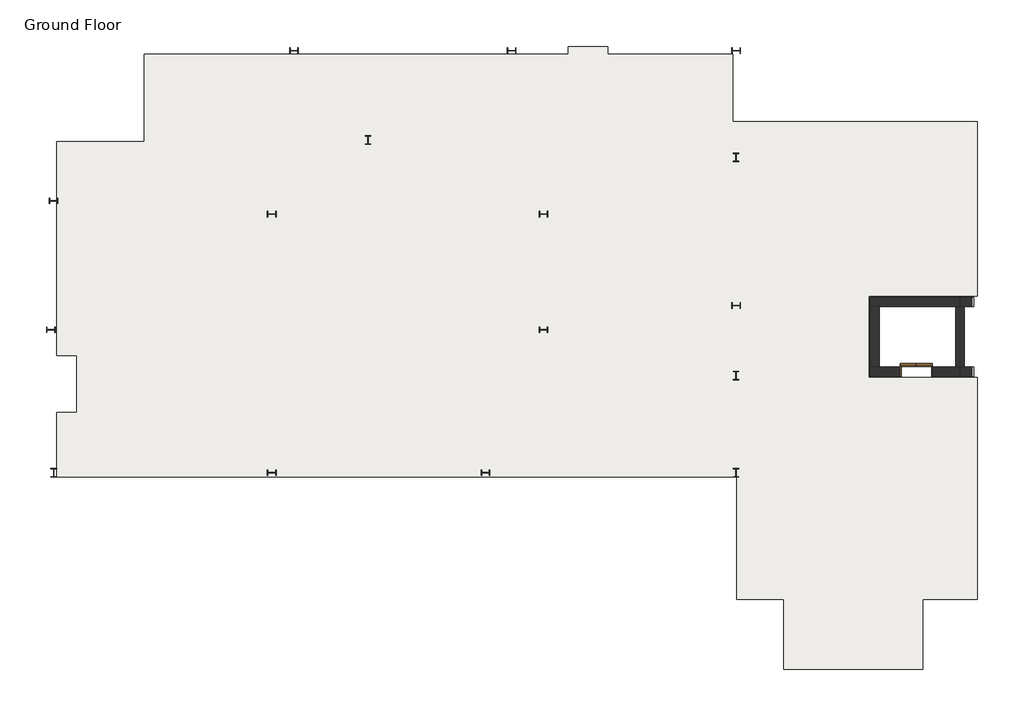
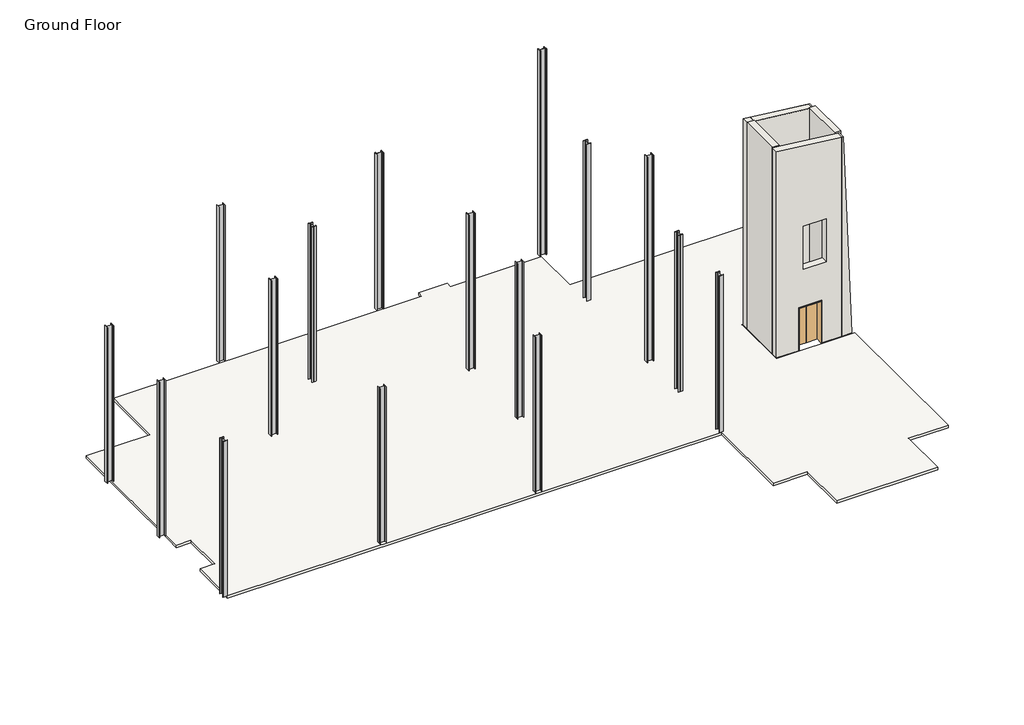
# One storey: 16 columns, 7 walls, 1 door, 1 slab.
"""IFC4 building model written with IfcOpenShell, lengths in millimetres."""

from ifc_helpers import new_model, si_unit, point, frame, frame_2d, origin, place, context, project, spatial, polyline, circle_curve, trimmed, segment, composite_curve, outline, extrude, faceted_brep, transform, mapped, element, save
from components import w_wide_flange_column_w12x40_bfea6e2c, door_aaeb5b8c

model = new_model("IFC4")

# Units and contexts
model_context = context("Model", 3, world=origin())
ifc_project = project(units=[si_unit("LENGTHUNIT", "METRE", prefix="MILLI")], contexts=[model_context])

# Site, building, storey
site = spatial("IfcSite", under=ifc_project)
building = spatial("IfcBuilding", under=site)
storey = spatial("IfcBuildingStorey", under=building, Name="Ground Floor", Elevation=30480.0)

# Columns
placement = place(None, origin())
element("IfcColumn", 1, ObjectType="W-Wide Flange-Column : W12X40", at=placement, inside=storey, context=model_context, shape_type="SweptSolid", body=[
    extrude(outline(composite_curve([segment(polyline([(13669.3791487, -6791.0746401), (13669.3791487, -6804.1715151), (13593.3279768, -6804.1715151)]), True, "CONTINUOUS"), segment(trimmed(circle_curve(frame_2d((13593.3279768, -6825.9996401)), 21.828125), [point((13593.3279768, -6804.1715151))], [point((13571.4998518, -6825.9996401))], True, "CARTESIAN"), True, "CONTINUOUS"), segment(polyline([(13571.4998518, -6825.9996401), (13571.4998518, -7059.4613589)]), True, "CONTINUOUS"), segment(trimmed(circle_curve(frame_2d((13593.3279768, -7059.4613589)), 21.828125), [point((13571.4998518, -7059.4613589))], [point((13593.3279768, -7081.2894839))], True, "CARTESIAN"), True, "CONTINUOUS"), segment(polyline([(13593.3279768, -7081.2894839), (13669.3791487, -7081.2894839), (13669.3791487, -7094.3863589), (13466.0799299, -7094.3863589), (13466.0799299, -7081.2894839), (13542.1311018, -7081.2894839)]), True, "CONTINUOUS"), segment(trimmed(circle_curve(frame_2d((13542.1311018, -7059.4613589)), 21.828125), [point((13542.1311018, -7081.2894839))], [point((13563.9592268, -7059.4613589))], True, "CARTESIAN"), True, "CONTINUOUS"), segment(polyline([(13563.9592268, -7059.4613589), (13563.9592268, -6825.9996401)]), True, "CONTINUOUS"), segment(trimmed(circle_curve(frame_2d((13542.1311018, -6825.9996401)), 21.828125), [point((13563.9592268, -6825.9996401))], [point((13542.1311018, -6804.1715151))], True, "CARTESIAN"), True, "CONTINUOUS"), segment(polyline([(13542.1311018, -6804.1715151), (13466.0799299, -6804.1715151), (13466.0799299, -6791.0746401), (13669.3791487, -6791.0746401)]), True, "CONTINUOUS")], self_intersect=False)), frame((0.0, 0.0, 30480.0), z_axis=(0.0, 0.0, 1.0), x_axis=(1.0, 0.0, 0.0)), (0.0, 0.0, 1.0), 7988.3),
])
element("IfcColumn", 2, ObjectType="W-Wide Flange-Column : W12X40", at=placement, inside=storey, context=model_context, shape_type="SweptSolid", body=[
    extrude(outline(composite_curve([segment(polyline([(-10575.3444063, -1833.0779639), (-10562.2475313, -1833.0779639), (-10562.2475313, -1909.1291357)]), True, "CONTINUOUS"), segment(trimmed(circle_curve(frame_2d((-10540.4194063, -1909.1291357)), 21.828125), [point((-10562.2475313, -1909.1291357))], [point((-10540.4194063, -1930.9572607))], True, "CARTESIAN"), True, "CONTINUOUS"), segment(polyline([(-10540.4194063, -1930.9572607), (-10306.9576875, -1930.9572607)]), True, "CONTINUOUS"), segment(trimmed(circle_curve(frame_2d((-10306.9576875, -1909.1291357)), 21.828125), [point((-10306.9576875, -1930.9572607))], [point((-10285.1295625, -1909.1291357))], True, "CARTESIAN"), True, "CONTINUOUS"), segment(polyline([(-10285.1295625, -1909.1291357), (-10285.1295625, -1833.0779639), (-10272.0326875, -1833.0779639), (-10272.0326875, -2036.3771826), (-10285.1295625, -2036.3771826), (-10285.1295625, -1960.3260107)]), True, "CONTINUOUS"), segment(trimmed(circle_curve(frame_2d((-10306.9576875, -1960.3260107)), 21.828125), [point((-10285.1295625, -1960.3260107))], [point((-10306.9576875, -1938.4978857))], True, "CARTESIAN"), True, "CONTINUOUS"), segment(polyline([(-10306.9576875, -1938.4978857), (-10540.4194063, -1938.4978857)]), True, "CONTINUOUS"), segment(trimmed(circle_curve(frame_2d((-10540.4194063, -1960.3260107)), 21.828125), [point((-10540.4194063, -1938.4978857))], [point((-10562.2475313, -1960.3260107))], True, "CARTESIAN"), True, "CONTINUOUS"), segment(polyline([(-10562.2475313, -1960.3260107), (-10562.2475313, -2036.3771826), (-10575.3444063, -2036.3771826), (-10575.3444063, -1833.0779639)]), True, "CONTINUOUS")], self_intersect=False)), frame((0.0, 0.0, 30480.0), z_axis=(0.0, 0.0, 1.0), x_axis=(1.0, 0.0, 0.0)), (0.0, 0.0, 1.0), 7924.8),
])
element("IfcColumn", 3, ObjectType="W-Wide Flange-Column : W12X40", at=placement, inside=storey, context=model_context, shape_type="SweptSolid", body=[
    extrude(outline(composite_curve([segment(polyline([(13416.0736799, 7944.8941099), (13429.1705549, 7944.8941099), (13429.1705549, 7868.842938)]), True, "CONTINUOUS"), segment(trimmed(circle_curve(frame_2d((13450.9986799, 7868.842938)), 21.828125), [point((13429.1705549, 7868.842938))], [point((13450.9986799, 7847.014813))], True, "CARTESIAN"), True, "CONTINUOUS"), segment(polyline([(13450.9986799, 7847.014813), (13684.4603987, 7847.014813)]), True, "CONTINUOUS"), segment(trimmed(circle_curve(frame_2d((13684.4603987, 7868.842938)), 21.828125), [point((13684.4603987, 7847.014813))], [point((13706.2885237, 7868.842938))], True, "CARTESIAN"), True, "CONTINUOUS"), segment(polyline([(13706.2885237, 7868.842938), (13706.2885237, 7944.8941099), (13719.3853987, 7944.8941099), (13719.3853987, 7741.5948911), (13706.2885237, 7741.5948911), (13706.2885237, 7817.646063)]), True, "CONTINUOUS"), segment(trimmed(circle_curve(frame_2d((13684.4603987, 7817.646063)), 21.828125), [point((13706.2885237, 7817.646063))], [point((13684.4603987, 7839.474188))], True, "CARTESIAN"), True, "CONTINUOUS"), segment(polyline([(13684.4603987, 7839.474188), (13450.9986799, 7839.474188)]), True, "CONTINUOUS"), segment(trimmed(circle_curve(frame_2d((13450.9986799, 7817.646063)), 21.828125), [point((13450.9986799, 7839.474188))], [point((13429.1705549, 7817.646063))], True, "CARTESIAN"), True, "CONTINUOUS"), segment(polyline([(13429.1705549, 7817.646063), (13429.1705549, 7741.5948911), (13416.0736799, 7741.5948911), (13416.0736799, 7944.8941099)]), True, "CONTINUOUS")], self_intersect=False)), frame((0.0, 0.0, 30480.0), z_axis=(0.0, 0.0, 1.0), x_axis=(1.0, 0.0, 0.0)), (0.0, 0.0, 1.0), 10466.7908493),
])
element("IfcColumn", 4, ObjectType="W-Wide Flange-Column : W12X40", at=placement, inside=storey, context=model_context, shape_type="SweptSolid", body=[
    extrude(outline(composite_curve([segment(polyline([(13466.0799299, 3954.6136411), (13466.0799299, 3967.7105161), (13542.1311018, 3967.7105161)]), True, "CONTINUOUS"), segment(trimmed(circle_curve(frame_2d((13542.1311018, 3989.5386411)), 21.828125), [point((13542.1311018, 3967.7105161))], [point((13563.9592268, 3989.5386411))], True, "CARTESIAN"), True, "CONTINUOUS"), segment(polyline([(13563.9592268, 3989.5386411), (13563.9592268, 4223.0003599)]), True, "CONTINUOUS"), segment(trimmed(circle_curve(frame_2d((13542.1311018, 4223.0003599)), 21.828125), [point((13563.9592268, 4223.0003599))], [point((13542.1311018, 4244.8284849))], True, "CARTESIAN"), True, "CONTINUOUS"), segment(polyline([(13542.1311018, 4244.8284849), (13466.0799299, 4244.8284849), (13466.0799299, 4257.9253599), (13669.3791487, 4257.9253599), (13669.3791487, 4244.8284849), (13593.3279768, 4244.8284849)]), True, "CONTINUOUS"), segment(trimmed(circle_curve(frame_2d((13593.3279768, 4223.0003599)), 21.828125), [point((13593.3279768, 4244.8284849))], [point((13571.4998518, 4223.0003599))], True, "CARTESIAN"), True, "CONTINUOUS"), segment(polyline([(13571.4998518, 4223.0003599), (13571.4998518, 3989.5386411)]), True, "CONTINUOUS"), segment(trimmed(circle_curve(frame_2d((13593.3279768, 3989.5386411)), 21.828125), [point((13571.4998518, 3989.5386411))], [point((13593.3279768, 3967.7105161))], True, "CARTESIAN"), True, "CONTINUOUS"), segment(polyline([(13593.3279768, 3967.7105161), (13669.3791487, 3967.7105161), (13669.3791487, 3954.6136411), (13466.0799299, 3954.6136411)]), True, "CONTINUOUS")], self_intersect=False)), frame((0.0, 0.0, 30480.0), z_axis=(0.0, 0.0, 1.0), x_axis=(1.0, 0.0, 0.0)), (0.0, 0.0, 1.0), 7988.3),
])
element("IfcColumn", 5, ObjectType="W-Wide Flange-Column : W12X40", at=placement, inside=storey, context=model_context, shape_type="SweptSolid", body=[
    extrude(outline(composite_curve([segment(polyline([(13719.3853987, -1186.5051089), (13706.2885237, -1186.5051089), (13706.2885237, -1110.453937)]), True, "CONTINUOUS"), segment(trimmed(circle_curve(frame_2d((13684.4603987, -1110.453937)), 21.828125), [point((13706.2885237, -1110.453937))], [point((13684.4603987, -1088.625812))], True, "CARTESIAN"), True, "CONTINUOUS"), segment(polyline([(13684.4603987, -1088.625812), (13450.9986799, -1088.625812)]), True, "CONTINUOUS"), segment(trimmed(circle_curve(frame_2d((13450.9986799, -1110.453937)), 21.828125), [point((13450.9986799, -1088.625812))], [point((13429.1705549, -1110.453937))], True, "CARTESIAN"), True, "CONTINUOUS"), segment(polyline([(13429.1705549, -1110.453937), (13429.1705549, -1186.5051089), (13416.0736799, -1186.5051089), (13416.0736799, -983.2058901), (13429.1705549, -983.2058901), (13429.1705549, -1059.257062)]), True, "CONTINUOUS"), segment(trimmed(circle_curve(frame_2d((13450.9986799, -1059.257062)), 21.828125), [point((13429.1705549, -1059.257062))], [point((13450.9986799, -1081.085187))], True, "CARTESIAN"), True, "CONTINUOUS"), segment(polyline([(13450.9986799, -1081.085187), (13684.4603987, -1081.085187)]), True, "CONTINUOUS"), segment(trimmed(circle_curve(frame_2d((13684.4603987, -1059.257062)), 21.828125), [point((13684.4603987, -1081.085187))], [point((13706.2885237, -1059.257062))], True, "CARTESIAN"), True, "CONTINUOUS"), segment(polyline([(13706.2885237, -1059.257062), (13706.2885237, -983.2058901), (13719.3853987, -983.2058901), (13719.3853987, -1186.5051089)]), True, "CONTINUOUS")], self_intersect=False)), frame((0.0, 0.0, 30480.0), z_axis=(0.0, 0.0, 1.0), x_axis=(1.0, 0.0, 0.0)), (0.0, 0.0, 1.0), 10466.8036839),
])
element("IfcColumn", 6, ObjectType="W-Wide Flange-Column : W12X40", at=placement, inside=storey, context=model_context, shape_type="SweptSolid", body=[
    extrude(outline(composite_curve([segment(polyline([(13669.3791487, -3387.4746401), (13669.3791487, -3400.5715151), (13593.3279768, -3400.5715151)]), True, "CONTINUOUS"), segment(trimmed(circle_curve(frame_2d((13593.3279768, -3422.3996401)), 21.828125), [point((13593.3279768, -3400.5715151))], [point((13571.4998518, -3422.3996401))], True, "CARTESIAN"), True, "CONTINUOUS"), segment(polyline([(13571.4998518, -3422.3996401), (13571.4998518, -3655.8613589)]), True, "CONTINUOUS"), segment(trimmed(circle_curve(frame_2d((13593.3279768, -3655.8613589)), 21.828125), [point((13571.4998518, -3655.8613589))], [point((13593.3279768, -3677.6894839))], True, "CARTESIAN"), True, "CONTINUOUS"), segment(polyline([(13593.3279768, -3677.6894839), (13669.3791487, -3677.6894839), (13669.3791487, -3690.7863589), (13466.0799299, -3690.7863589), (13466.0799299, -3677.6894839), (13542.1311018, -3677.6894839)]), True, "CONTINUOUS"), segment(trimmed(circle_curve(frame_2d((13542.1311018, -3655.8613589)), 21.828125), [point((13542.1311018, -3677.6894839))], [point((13563.9592268, -3655.8613589))], True, "CARTESIAN"), True, "CONTINUOUS"), segment(polyline([(13563.9592268, -3655.8613589), (13563.9592268, -3422.3996401)]), True, "CONTINUOUS"), segment(trimmed(circle_curve(frame_2d((13542.1311018, -3422.3996401)), 21.828125), [point((13563.9592268, -3422.3996401))], [point((13542.1311018, -3400.5715151))], True, "CARTESIAN"), True, "CONTINUOUS"), segment(polyline([(13542.1311018, -3400.5715151), (13466.0799299, -3400.5715151), (13466.0799299, -3387.4746401), (13669.3791487, -3387.4746401)]), True, "CONTINUOUS")], self_intersect=False)), frame((0.0, 0.0, 30480.0), z_axis=(0.0, 0.0, 1.0), x_axis=(1.0, 0.0, 0.0)), (0.0, 0.0, 1.0), 7988.3),
])
w_wide_flange_column_w12x40_shape = w_wide_flange_column_w12x40_bfea6e2c(model_context)
element("IfcColumn", 7, ObjectType="W-Wide Flange-Column : W12X40", at=placement, inside=storey, context=model_context, shape_type="MappedRepresentation", body=[
    mapped(w_wide_flange_column_w12x40_shape, transform((-10327.3204607, -6942.7304995, 0.0), x_axis=(1.0, 0.0, 0.0), y_axis=(0.0, 1.0, 0.0), z_axis=(0.0, 0.0, 1.0))),
])
element("IfcColumn", 8, ObjectType="W-Wide Flange-Column : W12X40", at=placement, inside=storey, context=model_context, shape_type="MappedRepresentation", body=[
    mapped(w_wide_flange_column_w12x40_shape, transform((-2689.8579607, -6942.7304995, 0.0), x_axis=(0.0, 1.0000000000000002, 0.0), y_axis=(-1.0000000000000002, 0.0, 0.0), z_axis=(0.0, 0.0, 1.0))),
])
element("IfcColumn", 9, ObjectType="W-Wide Flange-Column : W12X40", at=placement, inside=storey, context=model_context, shape_type="MappedRepresentation", body=[
    mapped(w_wide_flange_column_w12x40_shape, transform((4795.2045393, -6942.7304995, 0.0), x_axis=(0.0, 1.0000000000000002, 0.0), y_axis=(-1.0000000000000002, 0.0, 0.0), z_axis=(0.0, 0.0, 1.0))),
])
element("IfcColumn", 10, ObjectType="W-Wide Flange-Column : W12X40", at=placement, inside=storey, context=model_context, shape_type="MappedRepresentation", body=[
    mapped(w_wide_flange_column_w12x40_shape, transform((6825.6170393, -1935.7554995, 0.0), x_axis=(0.0, -1.0000000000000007, 0.0), y_axis=(1.0000000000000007, 0.0, 0.0), z_axis=(0.0, 0.0, 1.0))),
])
element("IfcColumn", 11, ObjectType="W-Wide Flange-Column : W12X40", at=placement, inside=storey, context=model_context, shape_type="MappedRepresentation", body=[
    mapped(w_wide_flange_column_w12x40_shape, transform((-2689.8579607, 2125.0695005, 0.0), x_axis=(0.0, 1.0, 0.0), y_axis=(-1.0, 0.0, 0.0), z_axis=(0.0, 0.0, 1.0))),
])
element("IfcColumn", 12, ObjectType="W-Wide Flange-Column : W12X40", at=placement, inside=storey, context=model_context, shape_type="MappedRepresentation", body=[
    mapped(w_wide_flange_column_w12x40_shape, transform((6825.6170393, 2125.0695005, 0.0), x_axis=(0.0, 1.0000000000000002, 0.0), y_axis=(-1.0000000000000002, 0.0, 0.0), z_axis=(0.0, 0.0, 1.0))),
])
element("IfcColumn", 13, ObjectType="W-Wide Flange-Column : W12X40", at=placement, inside=storey, context=model_context, shape_type="MappedRepresentation", body=[
    mapped(w_wide_flange_column_w12x40_shape, transform((-1910.3954607, 7843.2445005, 0.0), x_axis=(0.0, 1.0000000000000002, 0.0), y_axis=(-1.0000000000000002, 0.0, 0.0), z_axis=(0.0, 0.0, 1.0))),
])
element("IfcColumn", 14, ObjectType="W-Wide Flange-Column : W12X40", at=placement, inside=storey, context=model_context, shape_type="MappedRepresentation", body=[
    mapped(w_wide_flange_column_w12x40_shape, transform((5709.6045393, 7843.2445005, 0.0), x_axis=(0.0, 1.0000000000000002, 0.0), y_axis=(-1.0000000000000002, 0.0, 0.0), z_axis=(0.0, 0.0, 1.0))),
])
element("IfcColumn", 15, ObjectType="W-Wide Flange-Column : W12X40", at=placement, inside=storey, context=model_context, shape_type="MappedRepresentation", body=[
    mapped(w_wide_flange_column_w12x40_shape, transform((-10327.3204607, 2582.2695005, 0.0), x_axis=(0.0, 1.0000000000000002, 0.0), y_axis=(-1.0000000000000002, 0.0, 0.0), z_axis=(0.0, 0.0, 1.0))),
])
element("IfcColumn", 16, ObjectType="W-Wide Flange-Column : W12X40", at=placement, inside=storey, context=model_context, shape_type="MappedRepresentation", body=[
    mapped(w_wide_flange_column_w12x40_shape, transform((680.4045393, 4715.8695005, 0.0), x_axis=(1.0, 0.0, 0.0), y_axis=(0.0, 1.0, 0.0), z_axis=(0.0, 0.0, 1.0))),
])

# Door
door_shape = door_aaeb5b8c(model_context)
element("IfcDoor", 17, ObjectType="Elevator_Door_CabCenter-Genericrfa : 42\" Opening", at=placement, inside=storey, context=model_context, shape_type="MappedRepresentation", body=[
    mapped(door_shape, transform((19883.5486799, -3399.4304995, 30480.0), x_axis=(1.0, 0.0, 0.0), y_axis=(0.0, 1.0, 0.0), z_axis=(0.0, 0.0, 1.0))),
])

# Slab
element("IfcSlab", 18, ObjectType="5\" Concrete", at=placement, inside=storey, context=model_context, shape_type="Brep", body=[
    faceted_brep([(7700.3295393, 7725.7695005, 30353.0), (7700.3295393, 7992.4695005, 30353.0), (9071.9295393, 7992.4695005, 30353.0), (9071.9295393, 7725.7695005, 30353.0), (13450.2545393, 7725.7695005, 30353.0), (13450.2545393, 7116.1695005, 30353.0), (13450.2545393, 5350.8695005, 30353.0), (22019.578935, 5350.8695005, 30353.0), (22019.578935, -757.8304995, 30353.0), (18219.8486799, -757.8304995, 30353.0), (18219.8486799, -3602.6304995, 30353.0), (22019.578935, -3602.6304995, 30353.0), (22019.578935, -11381.3804995, 30353.0), (20105.0545393, -11381.3804995, 30353.0), (20105.0545393, -13826.1304995, 30353.0), (15240.9545393, -13826.1304995, 30353.0), (15240.9545393, -11381.3804995, 30353.0), (13583.6045393, -11381.3804995, 30353.0), (13583.6045393, -10771.7804995, 30353.0), (13583.6045393, -7095.1304995, 30353.0), (-10225.7204607, -7095.1304995, 30353.0), (-10225.7204607, -4821.8304995, 30353.0), (-9524.0454607, -4821.8304995, 30353.0), (-9524.0454607, -2837.4554995, 30353.0), (-10225.7204607, -2837.4554995, 30353.0), (-10225.7204607, -2227.8554995, 30353.0), (-10225.7204607, 4661.8945005, 30353.0), (-7149.1454607, 4661.8945005, 30353.0), (-7149.1454607, 7725.7695005, 30353.0), (7700.3295393, 7725.7695005, 30480.0), (-7149.1454607, 7725.7695005, 30480.0), (-7149.1454607, 4661.8945005, 30480.0), (-10225.7204607, 4661.8945005, 30480.0), (-10225.7204607, -2837.4554995, 30480.0), (-9524.0454607, -2837.4554995, 30480.0), (-9524.0454607, -4821.8304995, 30480.0), (-10225.7204607, -4821.8304995, 30480.0), (-10225.7204607, -7095.1304995, 30480.0), (13583.6045393, -7095.1304995, 30480.0), (13583.6045393, -11381.3804995, 30480.0), (15240.9545393, -11381.3804995, 30480.0), (15240.9545393, -13826.1304995, 30480.0), (20105.0545393, -13826.1304995, 30480.0), (20105.0545393, -11381.3804995, 30480.0), (22019.578935, -11381.3804995, 30480.0), (22019.578935, -3602.6304995, 30480.0), (18219.8486799, -3602.6304995, 30480.0), (18219.8486799, -757.8304995, 30480.0), (22019.578935, -757.8304995, 30480.0), (22019.578935, 5350.8695005, 30480.0), (13450.2545393, 5350.8695005, 30480.0), (13450.2545393, 7725.7695005, 30480.0), (9071.9295393, 7725.7695005, 30480.0), (9071.9295393, 7992.4695005, 30480.0), (7700.3295393, 7992.4695005, 30480.0)], [[[0, 1, 2, 3, 4, 5, 6, 7, 8, 9, 10, 11, 12, 13, 14, 15, 16, 17, 18, 19, 20, 21, 22, 23, 24, 25, 26, 27, 28]], [[29, 30, 31, 32, 33, 34, 35, 36, 37, 38, 39, 40, 41, 42, 43, 44, 45, 46, 47, 48, 49, 50, 51, 52, 53, 54]], [[6, 5, 4, 51, 50]], [[7, 6, 50, 49]], [[8, 7, 49, 48]], [[9, 8, 48, 47]], [[10, 9, 47, 46]], [[11, 10, 46, 45]], [[12, 11, 45, 44]], [[13, 12, 44, 43]], [[19, 18, 17, 39, 38]], [[20, 19, 38, 37]], [[21, 20, 37, 36]], [[26, 25, 24, 33, 32]], [[27, 26, 32, 31]], [[28, 27, 31, 30]], [[0, 28, 30, 29]], [[1, 0, 29, 54]], [[2, 1, 54, 53]], [[3, 2, 53, 52]], [[4, 3, 52, 51]], [[17, 16, 40, 39]], [[22, 21, 36, 35]], [[23, 22, 35, 34]], [[24, 23, 34, 33]], [[14, 13, 43, 42]], [[15, 14, 42, 41]], [[16, 15, 41, 40]]]),
])

# Walls
element("IfcWall", 19, ObjectType="Elevator Wall - 12\" CMU w furring & Wood Planks", at=placement, inside=storey, context=model_context, shape_type="Brep", body=[
    faceted_brep([(18588.1486799, -3234.3304995, 30480.0), (18588.1486799, -1126.1304995, 30480.0), (18588.1486799, -1126.1304995, 40995.6), (18588.1486799, -3234.3304995, 40995.6), (18257.9486799, -3234.3304995, 30480.0), (18257.9486799, -3234.3304995, 40981.1907931), (18257.9486799, -3234.3304995, 40995.6), (18257.9486799, -1126.1304995, 40995.6), (18257.9486799, -1126.1304995, 40981.1907931), (18257.9486799, -1126.1304995, 30480.0)], [[[0, 1, 2, 3]], [[4, 5, 6, 7, 8, 9]], [[1, 0, 4, 9]], [[3, 2, 7, 6]], [[2, 1, 9, 8, 7]], [[0, 3, 6, 5, 4]]]),
])
element("IfcWall", 20, ObjectType="Elevator Wall - 12\" CMU w furring & Wood Planks", at=placement, inside=storey, context=model_context, shape_type="Brep", body=[
    faceted_brep([(18257.9486799, -1126.1304995, 40981.1907931), (18257.9486799, -1126.1304995, 30480.0), (18588.1486799, -1126.1304995, 30480.0), (21255.1486799, -1126.1304995, 30480.0), (21402.7861799, -1126.1304995, 30480.0), (21402.7861799, -1126.1304995, 40629.44646), (18257.9486799, -795.9304995, 30480.0), (18257.9486799, -795.9304995, 40981.1907931), (21402.7861799, -795.9304995, 40629.44646), (21402.7861799, -795.9304995, 30480.0)], [[[0, 1, 2, 3, 4, 5]], [[6, 7, 8, 9]], [[0, 7, 6, 1]], [[4, 3, 2, 1, 6, 9]], [[5, 4, 9, 8]], [[0, 5, 8, 7]]]),
])
element("IfcWall", 21, ObjectType="Elevator Wall - 12\" CMU w furring & Wood Planks", at=placement, inside=storey, context=model_context, shape_type="Brep", body=[
    faceted_brep([(21889.8617513, -3234.3304995, 30480.0), (21550.4236799, -3234.3304995, 30480.0), (21402.7861799, -3234.3304995, 30480.0), (21402.7861799, -3234.3304995, 40629.44646), (21467.4045193, -3234.3304995, 40622.2190167), (21889.8617513, -3564.5304995, 30480.0), (21467.4045193, -3564.5304995, 40622.2190167), (21402.7861799, -3564.5304995, 40629.44646), (21402.7861799, -3564.5304995, 30480.0)], [[[0, 1, 2, 3, 4]], [[5, 6, 7, 8]], [[2, 1, 0, 5, 8]], [[3, 2, 8, 7]], [[4, 3, 7, 6]], [[0, 4, 6, 5]]]),
])
element("IfcWall", 22, ObjectType="Elevator Wall - 12\" CMU w furring & Wood Planks", at=placement, inside=storey, context=model_context, shape_type="Brep", body=[
    faceted_brep([(21402.7861799, -1126.1304995, 30480.0), (21550.4236799, -1126.1304995, 30480.0), (21889.8617513, -1126.1304995, 30480.0), (21467.4045193, -1126.1304995, 40622.2190167), (21402.7861799, -1126.1304995, 40629.44646), (21402.7861799, -795.9304995, 30480.0), (21402.7861799, -795.9304995, 40629.44646), (21467.4045193, -795.9304995, 40622.2190167), (21889.8617513, -795.9304995, 30480.0)], [[[0, 1, 2, 3, 4]], [[5, 6, 7, 8]], [[2, 1, 0, 5, 8]], [[3, 2, 8, 7]], [[4, 3, 7, 6]], [[0, 4, 6, 5]]]),
])
element("IfcWall", 23, ObjectType="Elevator Wall - 12\" CMU w furring & Wood Planks", at=placement, inside=storey, context=model_context, shape_type="Brep", body=[
    faceted_brep([(18257.9486799, -3234.3304995, 40981.1907931), (21402.7861799, -3234.3304995, 40629.44646), (21402.7861799, -3234.3304995, 30480.0), (21255.1486799, -3234.3304995, 30480.0), (20442.3486799, -3234.3304995, 30480.0), (20442.3486799, -3234.3304995, 32664.4), (19324.7486799, -3234.3304995, 32664.4), (19324.7486799, -3234.3304995, 30480.0), (18588.1486799, -3234.3304995, 30480.0), (18257.9486799, -3234.3304995, 30480.0), (20665.8141096, -3234.3304995, 34544.0), (20665.8141096, -3234.3304995, 36728.4), (19548.2141096, -3234.3304995, 36728.4), (19548.2141096, -3234.3304995, 34544.0), (21402.7861799, -3564.5304995, 40629.44646), (18257.9486799, -3564.5304995, 40981.1907931), (18257.9486799, -3564.5304995, 30480.0), (19324.7486799, -3564.5304995, 30480.0), (19324.7486799, -3564.5304995, 32664.4), (20442.3486799, -3564.5304995, 32664.4), (20442.3486799, -3564.5304995, 30480.0), (21402.7861799, -3564.5304995, 30480.0), (20665.8141096, -3564.5304995, 34544.0), (19548.2141096, -3564.5304995, 34544.0), (19548.2141096, -3564.5304995, 36728.4), (20665.8141096, -3564.5304995, 36728.4)], [[[0, 1, 2, 3, 4, 5, 6, 7, 8, 9], [10, 11, 12, 13]], [[14, 15, 16, 17, 18, 19, 20, 21], [22, 23, 24, 25]], [[0, 9, 16, 15]], [[10, 13, 23, 22]], [[13, 12, 24, 23]], [[12, 11, 25, 24]], [[11, 10, 22, 25]], [[19, 5, 4, 20]], [[5, 19, 18, 6]], [[6, 18, 17, 7]], [[16, 9, 8, 7, 17]], [[2, 21, 20, 4, 3]], [[1, 0, 15, 14]], [[2, 1, 14, 21]]]),
])
element("IfcWall", 24, ObjectType="Elevator Wall - 12\" CMU w furring & Wood Planks", at=placement, inside=storey, context=model_context, shape_type="SweptSolid", body=[
    extrude(outline(polyline([(40944.2585259, 18588.1486799), (30480.0, 18588.1486799), (30480.0, 21889.8617513), (40622.2190167, 21467.4045193), (40944.2585259, 18588.1486799)])), frame((0.0, -1126.1304995, 0.0), z_axis=(0.0, 1.0, 0.0), x_axis=(0.0, 0.0, 1.0)), (0.0, 0.0, 1.0), 330.2),
])
element("IfcWall", 25, ObjectType="Elevator Wall - 12\" CMU", at=placement, inside=storey, context=model_context, shape_type="Brep", body=[
    faceted_brep([(21550.4236799, -3234.3304995, 40690.8), (21550.4236799, -3234.3304995, 30480.0), (21550.4236799, -1126.1304995, 30480.0), (21550.4236799, -1126.1304995, 40690.8), (21255.1486799, -3234.3304995, 30480.0), (21255.1486799, -3234.3304995, 40690.8), (21255.1486799, -1126.1304995, 40690.8), (21255.1486799, -1126.1304995, 30480.0), (21402.7861799, -3234.3304995, 30480.0), (21402.7861799, -1126.1304995, 30480.0)], [[[0, 1, 2, 3]], [[4, 5, 6, 7]], [[2, 1, 8, 4, 7, 9]], [[0, 3, 6, 5]], [[2, 9, 7, 6, 3]], [[0, 5, 4, 8, 1]]]),
])

save(model, "model.ifc")
